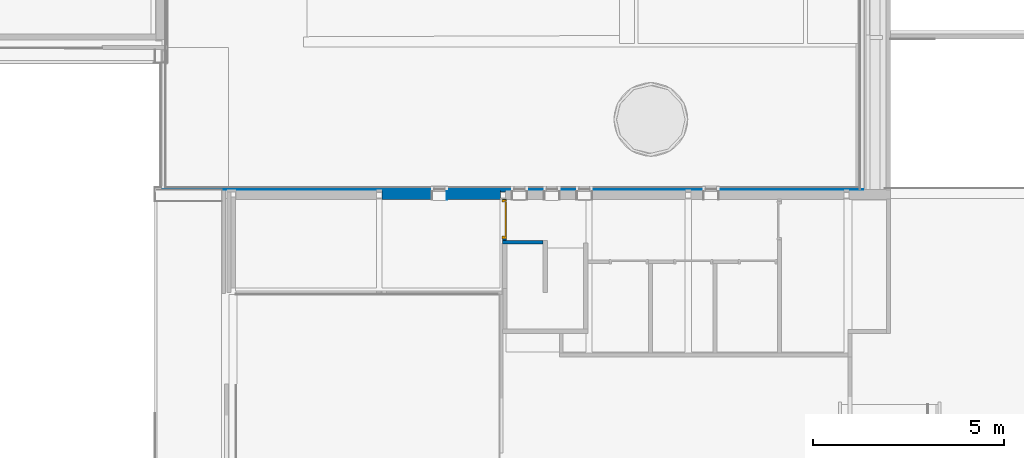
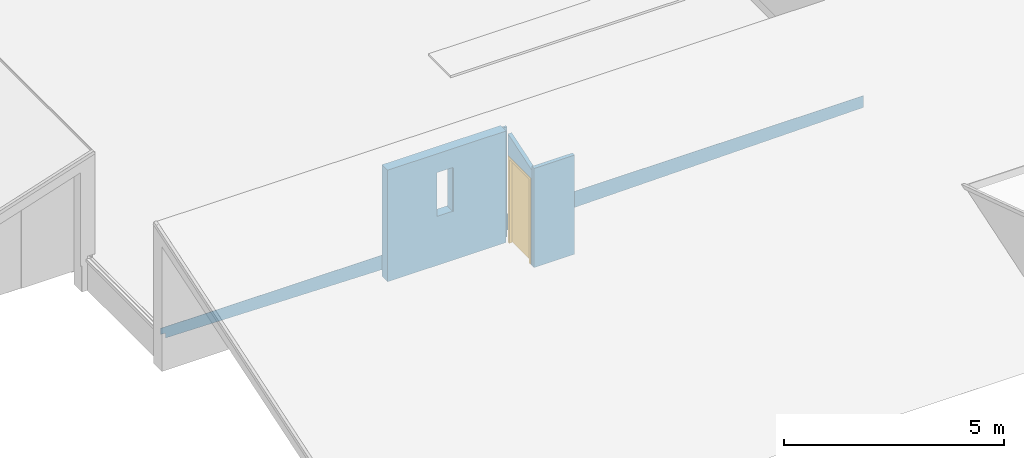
# One storey, part 19 of 66: 6 walls, 1 door, 3 openings.
"""IFC2X3 building model written with IfcOpenShell, lengths in millimetres."""

import ifcopenshell
import ifcopenshell.guid

model = None  # the IFC model being written
_history = None  # IfcOwnerHistory: only IFC2X3 demands one
_inside = {}  # id of a spatial element -> (the spatial element, [elements in it])
_under = {}  # id of a project, library or spatial element -> (it, [spatial elements below it])
_declared = {}  # id of a project -> (the project, [libraries it declares])
_typed = {}  # id of a type object -> (the type object, [elements of that type])
_made_of = {}  # id of a material, layer set ... -> (it, [elements and type objects made of it])


def new_model(schema):
    """Start an empty IFC model of exactly this schema.

    Asked for "IFC4X3", IfcOpenShell would pick the latest addendum, in which some entities
    have other attributes; the version numbers below select the first issue.
    IFC2X3 requires an IfcOwnerHistory on every rooted entity: one is made here for all.
    """
    global model, _history
    if schema == "IFC4X3":
        model = ifcopenshell.file(schema_version=(4, 3, 0, 0))
    else:
        model = ifcopenshell.file(schema=schema)
    _inside.clear()
    _under.clear()
    _declared.clear()
    _typed.clear()
    _made_of.clear()
    _history = None
    if model.schema == "IFC2X3":
        org = make("IfcOrganization", Name="unknown")
        user = make(
            "IfcPersonAndOrganization",
            ThePerson=make("IfcPerson", FamilyName="unknown"),
            TheOrganization=org,
        )
        app = make(
            "IfcApplication",
            ApplicationDeveloper=org,
            Version="unknown",
            ApplicationFullName="unknown",
            ApplicationIdentifier="unknown",
        )
        _history = make(
            "IfcOwnerHistory",
            OwningUser=user,
            OwningApplication=app,
            ChangeAction="ADDED",
            CreationDate=0,
        )
    return model


def make(cls, **values):
    """One entity of the class cls with the attributes given. An attribute that is None is left unset."""
    return model.create_entity(
        cls, **{name: value for name, value in values.items() if value is not None}
    )


def entity(cls, *values):
    """Any entity or typed value of the class cls, its attributes in the order of the schema. None: left unset."""
    e = model.create_entity(cls)
    for i, value in enumerate(values):
        if value is not None:
            e[i] = value
    return e


def rooted(cls, **values):
    """An entity with a GlobalId (a new one), such as an element, a storey or a relation."""
    return make(cls, GlobalId=ifcopenshell.guid.new(), OwnerHistory=_history, **values)


def si_unit(unit_type, name, prefix=None):
    """IfcSIUnit, for example si_unit("LENGTHUNIT", "METRE", prefix="MILLI")."""
    return make("IfcSIUnit", UnitType=unit_type, Prefix=prefix, Name=name)


def converted_unit(unit_type, name, factor, base, dimensions=None, offset=None):
    """IfcConversionBasedUnit, such as the inch: factor (a typed value) times the base unit."""
    return make(
        "IfcConversionBasedUnit"
        if offset is None
        else "IfcConversionBasedUnitWithOffset",
        ConversionOffset=offset,
        Dimensions=None
        if dimensions is None
        else entity("IfcDimensionalExponents", *dimensions),
        UnitType=unit_type,
        Name=name,
        ConversionFactor=make(
            "IfcMeasureWithUnit", ValueComponent=factor, UnitComponent=base
        ),
    )


def derived_unit(unit_type, elements):
    """IfcDerivedUnit: a product of units, each with its exponent."""
    return make(
        "IfcDerivedUnit",
        Elements=[
            make("IfcDerivedUnitElement", Unit=unit, Exponent=power)
            for unit, power in elements
        ],
        UnitType=unit_type,
    )


def assignment(units):
    """IfcUnitAssignment: the units of a project."""
    return None if units is None else make("IfcUnitAssignment", Units=units)


def point(xyz):
    """IfcCartesianPoint."""
    return None if xyz is None else make("IfcCartesianPoint", Coordinates=xyz)


def direction(xyz):
    """IfcDirection."""
    return None if xyz is None else make("IfcDirection", DirectionRatios=xyz)


def frame(location, z_axis=None, x_axis=None):
    """IfcAxis2Placement3D, a coordinate frame: its origin and axes. An axis left out is left unset."""
    return make(
        "IfcAxis2Placement3D",
        Location=point(location),
        Axis=direction(z_axis),
        RefDirection=direction(x_axis),
    )


def frame_2d(location, x_axis=None):
    """IfcAxis2Placement2D, a coordinate frame in the plane: its origin and x axis."""
    return make(
        "IfcAxis2Placement2D", Location=point(location), RefDirection=direction(x_axis)
    )


def origin():
    """The frame at (0, 0, 0) with its axes left unset."""
    return frame((0.0, 0.0, 0.0))


def place(relative_to, where):
    """IfcLocalPlacement: puts the frame where relative to a parent placement (None: the world)."""
    return make(
        "IfcLocalPlacement", PlacementRelTo=relative_to, RelativePlacement=where
    )


def context(
    kind, dimensions, precision=None, world=None, true_north=None, identifier=None
):
    """IfcGeometricRepresentationContext, for example the 3D "Model" context."""
    return make(
        "IfcGeometricRepresentationContext",
        ContextIdentifier=identifier,
        ContextType=kind,
        CoordinateSpaceDimension=dimensions,
        Precision=precision,
        WorldCoordinateSystem=world,
        TrueNorth=true_north,
    )


def subcontext(parent, identifier, kind, view, scale=None):
    """IfcGeometricRepresentationSubContext, for example "Body" below "Model"."""
    return make(
        "IfcGeometricRepresentationSubContext",
        ContextIdentifier=identifier,
        ContextType=kind,
        ParentContext=parent,
        TargetScale=scale,
        TargetView=view,
    )


def project(units=None, contexts=None):
    """IfcProject with its units and contexts."""
    return rooted(
        "IfcProject",
        Name="project",
        RepresentationContexts=contexts,
        UnitsInContext=assignment(units),
    )


def spatial(cls, under=None, at=None, **own):
    """A site, building, storey or space (cls), placed at a placement, below another one or the project."""
    s = rooted(cls, ObjectPlacement=at, **own)
    if under is not None:
        _under.setdefault(under.id(), (under, []))[1].append(s)
    return s


def polyline(points):
    """IfcPolyline through the points."""
    return make("IfcPolyline", Points=[point(p) for p in points])


def profile(cls, at=None, kind="AREA", **sizes):
    """A parametric profile (cls). Its sizes go by their IFC names, for example OverallWidth=200.0."""
    return make(cls, ProfileType=kind, Position=at, **sizes)


def rectangle(**sizes):
    """IfcRectangleProfileDef."""
    return profile("IfcRectangleProfileDef", **sizes)


def outline(outer, holes=None, kind="AREA"):
    """IfcArbitraryClosedProfileDef: a profile drawn as a closed curve; with holes, ...WithVoids."""
    if holes is None:
        return make("IfcArbitraryClosedProfileDef", ProfileType=kind, OuterCurve=outer)
    return make(
        "IfcArbitraryProfileDefWithVoids",
        ProfileType=kind,
        OuterCurve=outer,
        InnerCurves=holes,
    )


def extrude(swept, where, along, depth):
    """IfcExtrudedAreaSolid: the profile swept, set in the frame where, extruded along a direction by depth."""
    return make(
        "IfcExtrudedAreaSolid",
        SweptArea=swept,
        Position=where,
        ExtrudedDirection=direction(along),
        Depth=depth,
    )


def clip(a, b, op="DIFFERENCE"):
    """IfcBooleanClippingResult: the solid a cut by the half space b."""
    return make(
        "IfcBooleanClippingResult", Operator=op, FirstOperand=a, SecondOperand=b
    )


def halfspace(plane, agree):
    """IfcHalfSpaceSolid: all space on one side of the plane z = 0 of the frame plane."""
    return make(
        "IfcHalfSpaceSolid",
        BaseSurface=make("IfcPlane", Position=plane),
        AgreementFlag=agree,
    )


def faces_of(points, faces, orient=None, outer=None):
    """IfcFace entities. A face is a list of loops; a loop is a list of indices into points, from 0.

    orient and outer hold one flag for each loop. By default every Orientation is true, the
    first loop of a face is its IfcFaceOuterBound and the others are IfcFaceBound.
    """
    made = []
    for i, loops in enumerate(faces):
        bounds = []
        for j, loop in enumerate(loops):
            is_outer = j == 0 if outer is None else outer[i][j]
            bounds.append(
                make(
                    "IfcFaceOuterBound" if is_outer else "IfcFaceBound",
                    Bound=make("IfcPolyLoop", Polygon=[points[k] for k in loop]),
                    Orientation=True if orient is None else orient[i][j],
                )
            )
        made.append(make("IfcFace", Bounds=bounds))
    return made


def faceted_brep(points, faces, orient=None, outer=None, voids=None):
    """IfcFacetedBrep: a solid bounded by flat faces; with voids (closed shells), ...WithVoids."""
    shared = [point(p) for p in points]
    hull = make("IfcClosedShell", CfsFaces=faces_of(shared, faces, orient, outer))
    if voids is None:
        return make("IfcFacetedBrep", Outer=hull)
    return make(
        "IfcFacetedBrepWithVoids",
        Outer=hull,
        Voids=[
            make(cls, CfsFaces=faces_of(shared, fs, o, b)) for cls, fs, o, b in voids
        ],
    )


def shape(context_of_items, identifier, shape_type, items):
    """IfcShapeRepresentation: the items that make up one representation, for example the "Body"."""
    return make(
        "IfcShapeRepresentation",
        ContextOfItems=context_of_items,
        RepresentationIdentifier=identifier,
        RepresentationType=shape_type,
        Items=items,
    )


def source(mapping_origin, context_of_items, identifier, shape_type, items):
    """IfcRepresentationMap: a shape defined once, which mapped items show again and again."""
    return make(
        "IfcRepresentationMap",
        MappingOrigin=mapping_origin,
        MappedRepresentation=shape(context_of_items, identifier, shape_type, items),
    )


def transform(
    local_origin,
    x_axis=None,
    y_axis=None,
    z_axis=None,
    scale=None,
    scale2=None,
    scale3=None,
    uniform=True,
):
    """IfcCartesianTransformationOperator3D, or its non-uniform kind. x_axis, y_axis, z_axis: its Axis1, 2, 3."""
    if uniform:
        return make(
            "IfcCartesianTransformationOperator3D",
            Axis1=direction(x_axis),
            Axis2=direction(y_axis),
            LocalOrigin=point(local_origin),
            Scale=scale,
            Axis3=direction(z_axis),
        )
    return make(
        "IfcCartesianTransformationOperator3DnonUniform",
        Axis1=direction(x_axis),
        Axis2=direction(y_axis),
        LocalOrigin=point(local_origin),
        Scale=scale,
        Axis3=direction(z_axis),
        Scale2=scale2,
        Scale3=scale3,
    )


def mapped(mapping_source, mapping_target):
    """IfcMappedItem: shows the shape of a source again, moved by a transform."""
    return make(
        "IfcMappedItem", MappingSource=mapping_source, MappingTarget=mapping_target
    )


def material(Name=None, Category=None):
    """IfcMaterial."""
    return make("IfcMaterial", Name=Name, Category=Category)


def material_list(materials):
    """IfcMaterialList."""
    return make("IfcMaterialList", Materials=materials)


def layer(
    of_material, thickness, ventilated=None, Name=None, Category=None, Priority=None
):
    """IfcMaterialLayer: one layer of a wall or slab, of a material (None: an air gap)."""
    return make(
        "IfcMaterialLayer",
        Material=of_material,
        LayerThickness=thickness,
        IsVentilated=ventilated,
        Name=Name,
        Category=Category,
        Priority=Priority,
    )


def layer_set(layers, Name=None):
    """IfcMaterialLayerSet."""
    return make("IfcMaterialLayerSet", MaterialLayers=layers, LayerSetName=Name)


def layer_usage(for_layer_set, set_direction, sense, offset, extent=None):
    """IfcMaterialLayerSetUsage: how a layer set lies in its element."""
    return make(
        "IfcMaterialLayerSetUsage",
        ForLayerSet=for_layer_set,
        LayerSetDirection=set_direction,
        DirectionSense=sense,
        OffsetFromReferenceLine=offset,
        ReferenceExtent=extent,
    )


def made_of(thing, what):
    """Note that an element or type object is made of a material, layer set ...; save() writes the relation."""
    if what is not None:
        _made_of.setdefault(what.id(), (what, []))[1].append(thing)
    return thing


def type_object(cls, material=None, **own):
    """A type object (cls), such as IfcWallType, which elements share."""
    return made_of(rooted(cls, **own), material)


def type_shapes(of_type, sources):
    """Give a type object the sources (RepresentationMaps) that its elements show as mapped items."""
    of_type.RepresentationMaps = sources


def element(
    cls,
    number,
    at=None,
    inside=None,
    cuts=None,
    type_object=None,
    material=None,
    context=None,
    identifier="Body",
    shape_type=None,
    held_by="IfcProductDefinitionShape",
    body=None,
    shapes=None,
    **own,
):
    """One element of the class cls, such as IfcWall. Its Tag is "e" and its number.

    at: its placement. inside: the storey or other place that contains it. cuts: it is an
    opening in that element (IfcRelVoidsElement). A single representation is given by context,
    identifier, shape_type and body (its items); several are given by shapes. held_by: the class
    of the entity that holds the representations. save() writes the other relations.
    """
    e = rooted(cls, Tag="e%d" % number, ObjectPlacement=at, **own)
    if body is not None:
        shapes = [shape(context, identifier, shape_type, body)]
    if shapes is not None:
        e.Representation = make(held_by, Representations=shapes)
    if inside is not None:
        _inside.setdefault(inside.id(), (inside, []))[1].append(e)
    if cuts is not None:
        rooted(
            "IfcRelVoidsElement", RelatingBuildingElement=cuts, RelatedOpeningElement=e
        )
    if type_object is not None:
        _typed.setdefault(type_object.id(), (type_object, []))[1].append(e)
    return made_of(e, material)


def fill(opening, filler):
    """IfcRelFillsElement: the door or window that sits in an opening."""
    return rooted(
        "IfcRelFillsElement",
        RelatingOpeningElement=opening,
        RelatedBuildingElement=filler,
    )


def aggregate(whole, parts):
    """IfcRelAggregates: a whole, such as a stair, and the parts it consists of."""
    return rooted("IfcRelAggregates", RelatingObject=whole, RelatedObjects=parts)


def save(model, path):
    """Write the relations noted so far, then the file.

    IfcRelAggregates (storeys below a building ...), IfcRelContainedInSpatialStructure (elements
    in a storey), IfcRelDefinesByType, IfcRelAssociatesMaterial and IfcRelDeclares: one each for
    every whole, place, type object, material and project.
    """
    for whole, parts in _under.values():
        aggregate(whole, parts)
    for where, things in _inside.values():
        rooted(
            "IfcRelContainedInSpatialStructure",
            RelatedElements=things,
            RelatingStructure=where,
        )
    for kind, things in _typed.values():
        rooted("IfcRelDefinesByType", RelatedObjects=things, RelatingType=kind)
    for what, things in _made_of.values():
        rooted("IfcRelAssociatesMaterial", RelatedObjects=things, RelatingMaterial=what)
    for by, libraries in _declared.values():
        rooted("IfcRelDeclares", RelatingContext=by, RelatedDefinitions=libraries)
    model.write(path)


model = new_model("IFC2X3")

# Units and contexts
model_context = context("Model", 3, precision=0.01, world=origin(), true_north=direction((6.12303176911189e-17, 1.0)))
body_context = subcontext(model_context, "Body", "Model", "MODEL_VIEW")
ifc_project = project(units=[si_unit("LENGTHUNIT", "METRE", prefix="MILLI"), si_unit("AREAUNIT", "SQUARE_METRE"), si_unit("VOLUMEUNIT", "CUBIC_METRE"), converted_unit("PLANEANGLEUNIT", "DEGREE", entity("IfcRatioMeasure", 0.0174532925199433), si_unit("PLANEANGLEUNIT", "RADIAN"), dimensions=[0, 0, 0, 0, 0, 0, 0]), si_unit("MASSUNIT", "GRAM", prefix="KILO"), derived_unit("MASSDENSITYUNIT", [(si_unit("MASSUNIT", "GRAM", prefix="KILO"), 1), (si_unit("LENGTHUNIT", "METRE"), -3)]), derived_unit("MOMENTOFINERTIAUNIT", [(si_unit("LENGTHUNIT", "METRE"), 4)]), si_unit("TIMEUNIT", "SECOND"), si_unit("FREQUENCYUNIT", "HERTZ"), si_unit("THERMODYNAMICTEMPERATUREUNIT", "DEGREE_CELSIUS"), derived_unit("THERMALTRANSMITTANCEUNIT", [(si_unit("MASSUNIT", "GRAM", prefix="KILO"), 1), (si_unit("THERMODYNAMICTEMPERATUREUNIT", "KELVIN"), -1), (si_unit("TIMEUNIT", "SECOND"), -3)]), derived_unit("VOLUMETRICFLOWRATEUNIT", [(si_unit("LENGTHUNIT", "METRE"), 3), (si_unit("TIMEUNIT", "SECOND"), -1)]), si_unit("ELECTRICCURRENTUNIT", "AMPERE"), si_unit("ELECTRICVOLTAGEUNIT", "VOLT"), si_unit("POWERUNIT", "WATT"), si_unit("FORCEUNIT", "NEWTON", prefix="KILO"), si_unit("ILLUMINANCEUNIT", "LUX"), si_unit("LUMINOUSFLUXUNIT", "LUMEN"), si_unit("LUMINOUSINTENSITYUNIT", "CANDELA"), derived_unit("USERDEFINED", [(si_unit("MASSUNIT", "GRAM", prefix="KILO"), -1), (si_unit("LENGTHUNIT", "METRE"), -2), (si_unit("TIMEUNIT", "SECOND"), 3), (si_unit("LUMINOUSFLUXUNIT", "LUMEN"), 1)]), derived_unit("LINEARVELOCITYUNIT", [(si_unit("LENGTHUNIT", "METRE"), 1), (si_unit("TIMEUNIT", "SECOND"), -1)]), si_unit("PRESSUREUNIT", "PASCAL"), derived_unit("USERDEFINED", [(si_unit("LENGTHUNIT", "METRE"), -2), (si_unit("MASSUNIT", "GRAM", prefix="KILO"), 1), (si_unit("TIMEUNIT", "SECOND"), -2)]), derived_unit("LINEARFORCEUNIT", [(si_unit("MASSUNIT", "GRAM", prefix="KILO"), 1), (si_unit("LENGTHUNIT", "METRE"), 1), (si_unit("TIMEUNIT", "SECOND"), -2), (si_unit("LENGTHUNIT", "METRE"), -1)]), derived_unit("PLANARFORCEUNIT", [(si_unit("MASSUNIT", "GRAM", prefix="KILO"), 1), (si_unit("LENGTHUNIT", "METRE"), 1), (si_unit("TIMEUNIT", "SECOND"), -2), (si_unit("LENGTHUNIT", "METRE"), -2)])], contexts=[model_context])

# Site, building, storey
site_placement = place(None, origin())
site = spatial("IfcSite", under=ifc_project, at=site_placement, Name="Default", CompositionType="ELEMENT")
building_placement = place(site_placement, origin())
building = spatial("IfcBuilding", under=site, at=building_placement, Name="-", CompositionType="ELEMENT")
storey_placement = place(building_placement, frame((0.0, 0.0, 3070.0)))
storey = spatial("IfcBuildingStorey", under=building, at=storey_placement, Name="01 eerste verdieping", CompositionType="ELEMENT", Elevation=3070.00000000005)

# Wall, opening, door
ifc_material_1 = material(Name="NLRS_f7_gipsplaat_gen")
ifc_layer_1 = layer(ifc_material_1, 12.5)
ifc_material_2 = material(Name="NLRS_m1_isolatie")
ifc_layer_2 = layer(ifc_material_2, 75.0)
ifc_layer_3 = layer(ifc_material_1, 12.5)
ifc_layer_set_1 = layer_set([ifc_layer_1, ifc_layer_2, ifc_layer_3], Name="Basic Wall:NLRS_21_WA_Metalstud 100mm")
ifc_layer_usage_1 = layer_usage(ifc_layer_set_1, "AXIS2", "NEGATIVE", 50.0)
wall_type_1 = type_object("IfcWallType", Name="Basic Wall:NLRS_21_WA_Metalstud 100mm", PredefinedType="STANDARD", material=ifc_layer_set_1)
wall_1_placement = place(storey_placement, frame((18666.6948343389, 9070.36587991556, 0.0), z_axis=(0.0, 0.0, 1.0), x_axis=(0.0, 1.0, 0.0)))
wall_1 = element("IfcWallStandardCase", 1, at=wall_1_placement, inside=storey, type_object=wall_type_1, material=ifc_layer_usage_1, Name="Basic Wall:NLRS_21_WA_Metalstud 100mm", ObjectType="Basic Wall:NLRS_21_WA_Metalstud 100mm", context=body_context, shape_type="Clipping", body=[
    clip(extrude(rectangle(XDim=1089.25821548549, YDim=99.9999999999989, at=frame_2d((544.629107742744, -3.5527136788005e-14), x_axis=(-1.0, 0.0))), origin(), (0.0, 0.0, 1.0), 2990.47917765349), halfspace(frame((0.0, -50.0, 2636.58878968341), z_axis=(-0.308992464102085, 0.0, 0.951064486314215), x_axis=(0.0, 1.0, 0.0)), False)),
])
opening_1_placement = place(wall_1_placement, frame((1076.75821548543, 50.0, -70.0)))
opening_1 = element("IfcOpeningElement", 2, at=opening_1_placement, cuts=wall_1, Name="AL_32.i_Binnenkozijn-enkeledeur_Rechtsdraaiend:Merk a:1", ObjectType="Opening", context=body_context, shape_type="SweptSolid", body=[
    extrude(rectangle(XDim=2462.00000000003, YDim=1034.0, at=frame_2d((1231.00000000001, 516.999999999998), x_axis=(1.0, 0.0))), frame((0.0, 0.0, 0.0), z_axis=(0.0, -1.0, 0.0), x_axis=(0.0, 0.0, 1.0)), (0.0, 0.0, 1.0), 100.0),
])
ifc_material_3 = material(Name="NLRS_i3_hout_Loofhout (hardhout) RAL 9002")
ifc_material_4 = material(Name="31_Glas")
ifc_material_5 = material(Name="<Unnamed>")
ifc_material_list = material_list([ifc_material_4, ifc_material_5, ifc_material_5, ifc_material_3])
door_style = type_object("IfcDoorStyle", Name="AL_32.i_Binnenkozijn-enkeledeur_Rechtsdraaiend:Merk a", ConstructionType="NOTDEFINED", OperationType="SINGLE_SWING_RIGHT", ParameterTakesPrecedence=False, Sizeable=False, material=ifc_material_list)
shared_shape = source(origin(), body_context, "Body", "Brep", [
    faceted_brep([(982.0, 40.0, 95.0), (52.0, 40.0, 95.0), (52.0, 40.0, 2410.0), (982.0, 40.0, 2410.0), (982.0, 0.0, 95.0), (52.0, 0.0, 95.0), (52.0, 0.0, 2410.0), (982.0, 0.0, 2410.0)], [[[0, 1, 2, 3]], [[1, 0, 4, 5]], [[2, 1, 5, 6]], [[0, 3, 7, 4]], [[4, 7, 6, 5]], [[3, 2, 6, 7]]]),
    faceted_brep([(984.0, -7.0, 70.0), (984.0, 42.0, 70.0), (967.0, 42.0, 70.0), (967.0, 107.0, 70.0), (1034.0, 107.0, 70.0), (1034.0, 77.0, 70.0), (1025.0, 77.0, 70.0), (1025.0, 23.0, 70.0), (1034.0, 23.0, 70.0), (1034.0, -7.0, 70.0), (984.0, -7.0, 2412.0), (984.0, 42.0, 2412.0), (50.0, 42.0, 2412.0), (50.0, 42.0, 70.0), (67.0, 42.0, 70.0), (67.0, 42.0, 2395.0), (967.0, 42.0, 2395.0), (967.0, 107.0, 2395.0), (67.0, 107.0, 2395.0), (67.0, 107.0, 70.0), (0.0, 107.0, 70.0), (0.0, 107.0, 2462.0), (1034.0, 107.0, 2462.0), (1034.0, 77.0, 2462.0), (0.0, 77.0, 2462.0), (0.0, 77.0, 70.0), (9.0, 77.0, 70.0), (9.0, 77.0, 2453.0), (1025.0, 77.0, 2453.0), (1025.0, 23.0, 2453.0), (9.0, 23.0, 2453.0), (9.0, 23.0, 70.0), (0.0, 23.0, 70.0), (0.0, 23.0, 2462.0), (1034.0, 23.0, 2462.0), (1034.0, -7.0, 2462.0), (0.0, -7.0, 2462.0), (0.0, -7.0, 70.0), (50.0, -7.0, 70.0), (50.0, -7.0, 2412.0)], [[[0, 1, 2, 3, 4, 5, 6, 7, 8, 9]], [[1, 0, 10, 11]], [[2, 1, 11, 12, 13, 14, 15, 16]], [[3, 2, 16, 17]], [[4, 3, 17, 18, 19, 20, 21, 22]], [[5, 4, 22, 23]], [[6, 5, 23, 24, 25, 26, 27, 28]], [[7, 6, 28, 29]], [[8, 7, 29, 30, 31, 32, 33, 34]], [[9, 8, 34, 35]], [[0, 9, 35, 36, 37, 38, 39, 10]], [[38, 37, 32, 31, 26, 25, 20, 19, 14, 13]], [[36, 33, 32, 37]], [[30, 27, 26, 31]], [[24, 21, 20, 25]], [[18, 15, 14, 19]], [[12, 39, 38, 13]], [[17, 16, 15, 18]], [[23, 22, 21, 24]], [[35, 34, 33, 36]], [[11, 10, 39, 12]], [[29, 28, 27, 30]]]),
])
type_shapes(door_style, [shared_shape])
door_placement = place(opening_1_placement, frame((-1034.0, -100.0, 0.0)))
door = element("IfcDoor", 3, at=door_placement, inside=storey, type_object=door_style, material=ifc_material_3, Name="AL_32.i_Binnenkozijn-enkeledeur_Rechtsdraaiend:Merk a", ObjectType="AL_32.i_Binnenkozijn-enkeledeur_Rechtsdraaiend:Merk a", OverallHeight=2462.00000000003, OverallWidth=1033.99999999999, context=body_context, shape_type="MappedRepresentation", body=[
    mapped(shared_shape, transform((0.0, 0.0, 0.0), scale=1.0)),
])
fill(opening_1, door)

# Wall
ifc_layer_usage_2 = layer_usage(ifc_layer_set_1, "AXIS2", "NEGATIVE", 50.0)
wall_2_placement = place(storey_placement, frame((19680.6948343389, 9020.36587991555, 0.0), z_axis=(0.0, 0.0, 1.0), x_axis=(-1.0, 0.0, 0.0)))
element("IfcWallStandardCase", 4, at=wall_2_placement, inside=storey, type_object=wall_type_1, material=ifc_layer_usage_2, Name="Basic Wall:NLRS_21_WA_Metalstud 100mm", ObjectType="Basic Wall:NLRS_21_WA_Metalstud 100mm", context=body_context, shape_type="SweptSolid", body=[
    extrude(rectangle(XDim=1064.0, YDim=99.9999999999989, at=frame_2d((532.0, -1.45661260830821e-13), x_axis=(-1.0, 0.0))), origin(), (0.0, 0.0, 1.0), 2749.29753203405),
])

# Wall, opening
ifc_material_6 = material(Name="NLRS_i4_hout_multiplex")
ifc_layer_4 = layer(ifc_material_6, 10.0)
ifc_layer_5 = layer(ifc_material_2, 235.0)
ifc_layer_6 = layer(ifc_material_6, 10.0)
ifc_layer_set_2 = layer_set([ifc_layer_4, ifc_layer_5, ifc_layer_6], Name="Basic Wall:NLRS_21_WA_HSB-wand_268mm (zonder gips)")
ifc_layer_usage_3 = layer_usage(ifc_layer_set_2, "AXIS2", "NEGATIVE", 127.5)
wall_type_2 = type_object("IfcWallType", Name="Basic Wall:NLRS_21_WA_HSB-wand_268mm (zonder gips)", PredefinedType="STANDARD", material=ifc_layer_set_2)
wall_3_placement = place(storey_placement, frame((15455.8284331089, 10274.624095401, 0.0)))
wall_3 = element("IfcWallStandardCase", 5, at=wall_3_placement, inside=storey, type_object=wall_type_2, material=ifc_layer_usage_3, Name="Basic Wall:NLRS_21_WA_HSB-wand_268mm (zonder gips)", ObjectType="Basic Wall:NLRS_21_WA_HSB-wand_268mm (zonder gips)", context=body_context, shape_type="SweptSolid", body=[
    extrude(rectangle(XDim=3106.18440552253, YDim=254.999999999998, at=frame_2d((1553.09220276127, 5.6843418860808e-13), x_axis=(-1.0, 0.0))), origin(), (0.0, 0.0, 1.0), 3093.29999999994),
])
opening_2_placement = place(wall_3_placement, origin())
element("IfcOpeningElement", 6, at=opening_2_placement, cuts=wall_3, Name="Basic Wall:NLRS_21_WA_HSB-wand_268mm (zonder gips)", ObjectType="Opening", context=body_context, shape_type="SweptSolid", body=[
    extrude(rectangle(XDim=1212.99999999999, YDim=414.000000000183, at=frame_2d((2.8421709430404e-13, 0.0), x_axis=(1.0, 0.0))), frame((1509.17156689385, 127.499999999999, 1965.5), z_axis=(0.0, -1.0, 0.0), x_axis=(0.0, 0.0, -1.0)), (0.0, 0.0, 1.0), 255.0),
])

ifc_material_7 = material(Name="n2_bitumen_dak bedekking")
ifc_layer_7 = layer(ifc_material_7, 6.0)
ifc_layer_set_3 = layer_set([ifc_layer_7], Name="Basic Wall:47.11_2 laagse APP dakbedekking")
ifc_layer_usage_4 = layer_usage(ifc_layer_set_3, "AXIS2", "POSITIVE", -3.0)
wall_type_3 = type_object("IfcWallType", Name="Basic Wall:47.11_2 laagse APP dakbedekking", PredefinedType="STANDARD", material=ifc_layer_set_3)
wall_4_placement = place(storey_placement, frame((28075.46365285, 10405.1240954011, 122.0), z_axis=(0.0, 0.0, 1.0), x_axis=(-1.0, 0.0, 0.0)))
wall_4 = element("IfcWallStandardCase", 7, at=wall_4_placement, inside=storey, type_object=wall_type_3, material=ifc_layer_usage_4, Name="Basic Wall:47.11_2 laagse APP dakbedekking", ObjectType="Basic Wall:47.11_2 laagse APP dakbedekking", context=body_context, shape_type="Clipping", body=[
    clip(clip(clip(clip(extrude(rectangle(XDim=18418.4636528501, YDim=5.99999999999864, at=frame_2d((9209.23182642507, 3.40394379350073e-13), x_axis=(-1.0, 0.0))), origin(), (0.0, 0.0, 1.0), 465.0), halfspace(frame((8591.41565590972, -3.0, 0.0), z_axis=(-0.0159979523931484, 0.0, -0.999872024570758), x_axis=(0.0, 1.0, 0.0)), False)), halfspace(frame((8791.51164977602, -3.0, 0.0), z_axis=(0.0, 0.0, -1.0), x_axis=(0.0, 1.0, 0.0)), False)), halfspace(frame((18289.4636528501, -3.0, 151.967232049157), z_axis=(0.0159979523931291, 0.0, -0.999872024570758), x_axis=(0.0, 1.0, 0.0)), False)), halfspace(frame((18289.4636528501, 0.0, 151.967232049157), z_axis=(0.742828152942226, 0.0, -0.669482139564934), x_axis=(0.0, 1.0, 0.0)), False)),
])
opening_3_placement = place(wall_4_placement, origin())
element("IfcOpeningElement", 8, at=opening_3_placement, cuts=wall_4, Name="Basic Wall:47.11_2 laagse APP dakbedekking", ObjectType="Opening", context=body_context, shape_type="SweptSolid", body=[
    extrude(outline(polyline([(-97.1936712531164, -29.7100034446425), (95.4925743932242, -29.7100034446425), (1.7010968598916, 59.4200068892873), (-97.1936712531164, -29.7100034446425)])), frame((18332.4636528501, 3.0, 244.055744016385), z_axis=(0.0, -1.0, 0.0), x_axis=(0.669482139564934, 0.0, 0.742828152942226)), (0.0, 0.0, 1.0), 6.00000000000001),
])

# Walls
ifc_material_8 = material(Name="NLRS_n7_isolatie PIR_gen")
ifc_layer_8 = layer(ifc_material_8, 60.0)
ifc_layer_set_4 = layer_set([ifc_layer_8], Name="Basic Wall:NLRS_22_WA_LB_isolatie PIR 60mm")
ifc_layer_usage_5 = layer_usage(ifc_layer_set_4, "AXIS2", "NEGATIVE", 30.0)
wall_type_4 = type_object("IfcWallType", Name="Basic Wall:NLRS_22_WA_LB_isolatie PIR 60mm", PredefinedType="STANDARD", material=ifc_layer_set_4)
wall_5_placement = place(storey_placement, frame((18562.0128386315, 10370.728362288, 0.0)))
element("IfcWallStandardCase", 9, at=wall_5_placement, inside=storey, type_object=wall_type_4, material=ifc_layer_usage_5, Name="Basic Wall:NLRS_22_WA_LB_isolatie PIR 60mm", ObjectType="Basic Wall:NLRS_22_WA_LB_isolatie PIR 60mm", context=body_context, shape_type="SweptSolid", body=[
    extrude(rectangle(XDim=139.999999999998, YDim=59.9999999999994, at=frame_2d((69.9999999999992, 2.57571741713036e-13), x_axis=(-1.0, 0.0))), origin(), (0.0, 0.0, 1.0), 3045.0),
])
ifc_material_9 = material(Name="AL_Multiplex RAL 9002")
ifc_layer_9 = layer(ifc_material_9, 18.0)
ifc_layer_set_5 = layer_set([ifc_layer_9], Name="Basic Wall:NLRS_41_WA_plaatmateriaal 18mm RAL 9002")
ifc_layer_usage_6 = layer_usage(ifc_layer_set_5, "AXIS2", "NEGATIVE", 9.0)
wall_type_5 = type_object("IfcWallType", Name="Basic Wall:NLRS_41_WA_plaatmateriaal 18mm RAL 9002", PredefinedType="STANDARD", material=ifc_layer_set_5)
wall_6_placement = place(storey_placement, frame((17163.0, 10357.1240954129, 1361.0), z_axis=(0.0, 0.0, 1.0), x_axis=(0.0, -1.0, 0.0)))
element("IfcWallStandardCase", 10, at=wall_6_placement, inside=storey, type_object=wall_type_5, material=ifc_layer_usage_6, Name="Basic Wall:NLRS_41_WA_plaatmateriaal 18mm RAL 9002", ObjectType="Basic Wall:NLRS_41_WA_plaatmateriaal 18mm RAL 9002", context=body_context, shape_type="SweptSolid", body=[
    extrude(rectangle(XDim=219.999999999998, YDim=18.0000000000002, at=frame_2d((109.999999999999, -4.69846384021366e-13), x_axis=(-1.0, 0.0))), origin(), (0.0, 0.0, 1.0), 1192.99999999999),
])

save(model, "model.ifc")
